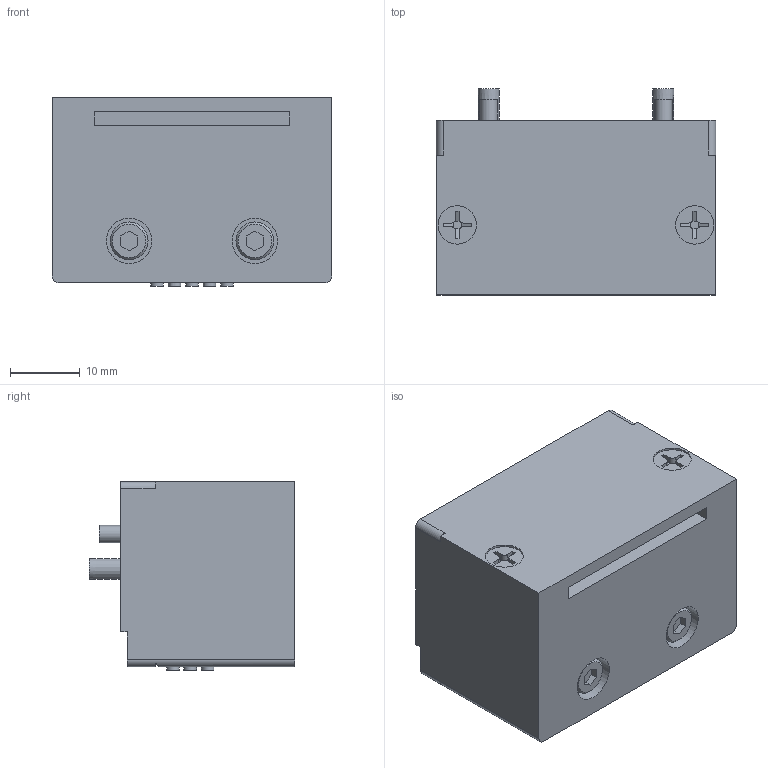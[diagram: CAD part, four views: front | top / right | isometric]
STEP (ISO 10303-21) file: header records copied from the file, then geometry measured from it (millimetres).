
FILE_DESCRIPTION(('STEP AP214'),'1');
FILE_NAME('KHB-7_25RS-D315_ver1.stp','2026-04-27T00:37:00',(' '),(' '),'Spatial InterOp 3D',' ',' ');
FILE_SCHEMA(('AUTOMOTIVE_DESIGN { 1 0 10303 214 1 1 1 1 }'));
Length unit declared in the file: millimetre
Products named in the file (3): KHB-7~25RS-D315_ver1; パーツ1
Assembly tree (2 placements, depth 2):
  KHB-7~25RS-D315_ver1
    パーツ1
    パーツ1
Bounding box: 40 x 29.5 x 27 mm (x, y, z)
Volume: 24826.9 mm3; surface area: 8801.4 mm2
Topology: 2 solids, 13 shells, 293 faces, 591 edges, 392 vertices
Faces by surface type: plane 193, cylinder 88, cone 12
Full cylindrical faces by diameter (mm): 1.02 x15, 1.8 x15, 2 x17, 2.15 x2, 2.5 x5, 3 x4, 3.5 x4, 5.41 x4, 5.5 x2, 5.8 x2, 6.5 x2
Entity records: 9473 total; most frequent: DIRECTION 1277, CARTESIAN_POINT 1159, ORIENTED_EDGE 978, AXIS2_PLACEMENT_3D 492, EDGE_CURVE 489, EDGE_LOOP 453, VERTEX_POINT 374, FACE_OUTER_BOUND 365
